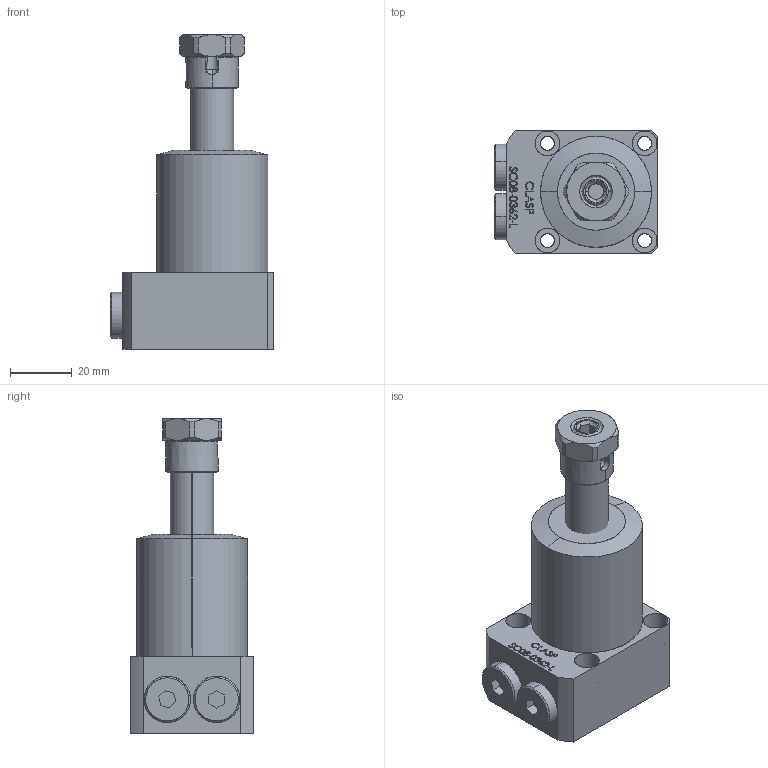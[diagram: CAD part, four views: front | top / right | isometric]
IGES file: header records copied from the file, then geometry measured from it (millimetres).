
Start section: SolidWorks IGES file using analytic representation for surfaces
Global section: file name: D:\karuppas\Clasp\3D model\SWING CYLINDER\bottom mounting swing cylinder\SC08-0362-L\SC08-0362-L.IGS; native system: SolidWorks 2017; preprocessor: SolidWorks 2017; author: pc; date: 220708.224600; units: millimetre
Bounding box: 53 x 40 x 102 mm (x, y, z)
Surface area: 22782 mm2 (no closed solid volume)
Topology: 0 solids, 0 shells, 374 faces, 5792 edges, 5791 vertices
Faces by surface type: bspline 269, revolution 105
